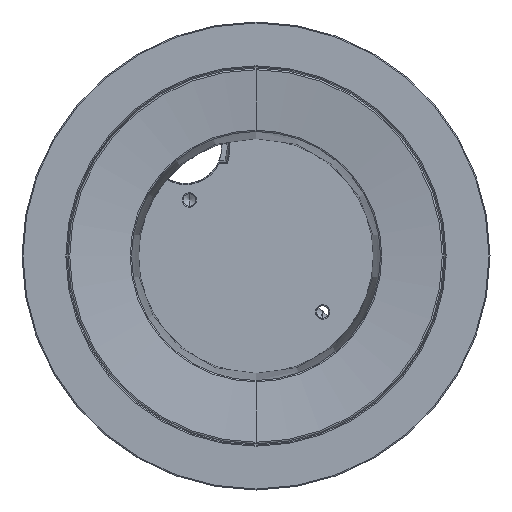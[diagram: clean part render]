
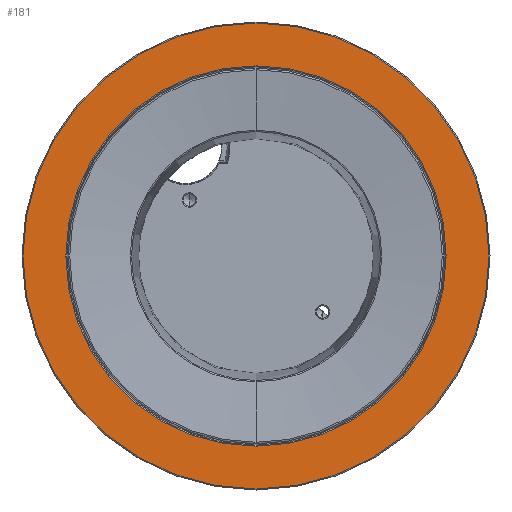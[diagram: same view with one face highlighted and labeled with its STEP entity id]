
A CAD part, front view. The second image highlights one B-rep face of the part: STEP entity #181.
In plain terms, the highlighted planar face has unit normal (0, -1, 0).
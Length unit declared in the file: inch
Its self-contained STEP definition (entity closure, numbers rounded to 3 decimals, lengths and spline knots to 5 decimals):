
#99 = DIRECTION ( 'NONE',  ( 0., 1., 0. ) ) ;
#181 = ADVANCED_FACE ( 'NONE', ( #9256, #16513 ), #5305, .T. ) ;
#1140 = DIRECTION ( 'NONE',  ( 0., 0., -1. ) ) ;
#2135 = CIRCLE ( 'NONE', #15214, 1.84252 ) ;
#2226 = CARTESIAN_POINT ( 'NONE',  ( 0., 0., -1.84252 ) ) ;
#3493 = ORIENTED_EDGE ( 'NONE', *, *, #12664, .T. ) ;
#4348 = VERTEX_POINT ( 'NONE', #15339 ) ;
#4632 = CARTESIAN_POINT ( 'NONE',  ( 0., 0., 0. ) ) ;
#5228 = VERTEX_POINT ( 'NONE', #15429 ) ;
#5305 = PLANE ( 'NONE',  #7118 ) ;
#5673 = CIRCLE ( 'NONE', #8851, 1.50367 ) ;
#5828 = AXIS2_PLACEMENT_3D ( 'NONE', #4632, #12706, #1140 ) ;
#6212 = DIRECTION ( 'NONE',  ( 0., 1., 0. ) ) ;
#6529 = DIRECTION ( 'NONE',  ( 0., 0., -1. ) ) ;
#6926 = DIRECTION ( 'NONE',  ( 0., -1., 0. ) ) ;
#7118 = AXIS2_PLACEMENT_3D ( 'NONE', #16755, #6926, #20476 ) ;
#7183 = CARTESIAN_POINT ( 'NONE',  ( 0., 0., -1.50367 ) ) ;
#8321 = DIRECTION ( 'NONE',  ( 0., 0., -1. ) ) ;
#8794 = EDGE_LOOP ( 'NONE', ( #21391, #21103 ) ) ;
#8851 = AXIS2_PLACEMENT_3D ( 'NONE', #23286, #6212, #8321 ) ;
#9256 = FACE_BOUND ( 'NONE', #13210, .T. ) ;
#11796 = EDGE_CURVE ( 'NONE', #12896, #5228, #2135, .T. ) ;
#12664 = EDGE_CURVE ( 'NONE', #12761, #4348, #5673, .T. ) ;
#12706 = DIRECTION ( 'NONE',  ( 0., -1., 0. ) ) ;
#12761 = VERTEX_POINT ( 'NONE', #7183 ) ;
#12896 = VERTEX_POINT ( 'NONE', #2226 ) ;
#13210 = EDGE_LOOP ( 'NONE', ( #3493, #13461 ) ) ;
#13411 = AXIS2_PLACEMENT_3D ( 'NONE', #23012, #99, #6529 ) ;
#13461 = ORIENTED_EDGE ( 'NONE', *, *, #16980, .T. ) ;
#15214 = AXIS2_PLACEMENT_3D ( 'NONE', #20370, #16648, #24373 ) ;
#15339 = CARTESIAN_POINT ( 'NONE',  ( 0., 0., 1.50367 ) ) ;
#15370 = CIRCLE ( 'NONE', #5828, 1.84252 ) ;
#15429 = CARTESIAN_POINT ( 'NONE',  ( 0., 0., 1.84252 ) ) ;
#16513 = FACE_OUTER_BOUND ( 'NONE', #8794, .T. ) ;
#16648 = DIRECTION ( 'NONE',  ( 0., -1., 0. ) ) ;
#16755 = CARTESIAN_POINT ( 'NONE',  ( -1.85039, 0., 0. ) ) ;
#16980 = EDGE_CURVE ( 'NONE', #4348, #12761, #20557, .T. ) ;
#20300 = EDGE_CURVE ( 'NONE', #5228, #12896, #15370, .T. ) ;
#20370 = CARTESIAN_POINT ( 'NONE',  ( 0., 0., 0. ) ) ;
#20476 = DIRECTION ( 'NONE',  ( 0., 0., -1. ) ) ;
#20557 = CIRCLE ( 'NONE', #13411, 1.50367 ) ;
#21103 = ORIENTED_EDGE ( 'NONE', *, *, #20300, .T. ) ;
#21391 = ORIENTED_EDGE ( 'NONE', *, *, #11796, .T. ) ;
#23012 = CARTESIAN_POINT ( 'NONE',  ( 0., 0., 0. ) ) ;
#23286 = CARTESIAN_POINT ( 'NONE',  ( 0., 0., 0. ) ) ;
#24373 = DIRECTION ( 'NONE',  ( 0., 0., -1. ) ) ;
